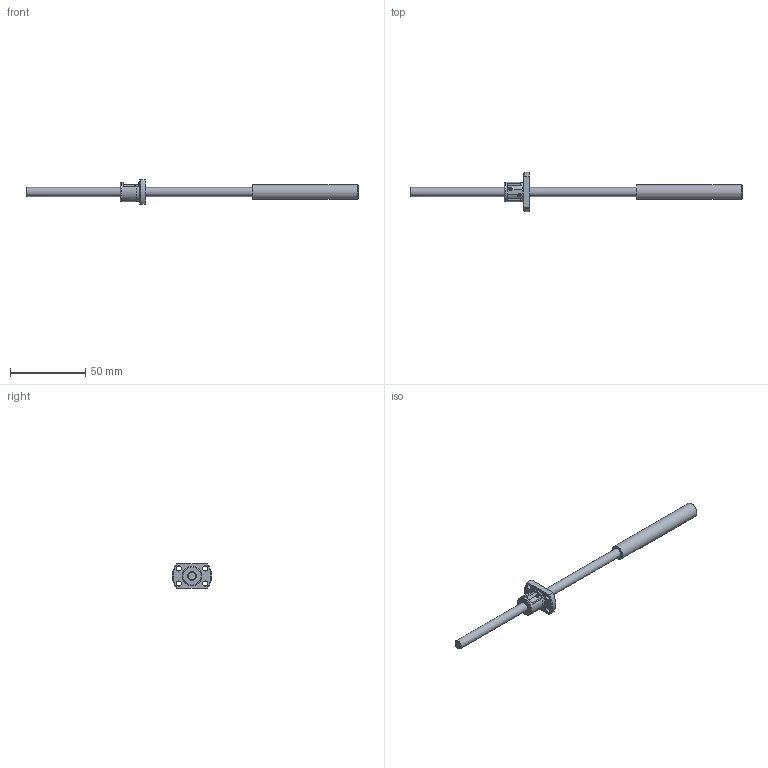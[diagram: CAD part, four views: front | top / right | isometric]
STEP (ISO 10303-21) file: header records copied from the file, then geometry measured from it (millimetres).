
FILE_DESCRIPTION(/* description */ ('STEP AP214'),/* implementation_level */ '2;1');
FILE_NAME(/* name */ 'SRT0601-146R220C7A0X(62.5None)',/* time_stamp */ '2026-08-04T17:53:02+02:00',/* author */ ('License CC BY-ND 4.0'),/* organization */ ('CADENAS'),/* preprocessor_version */ 'ST-DEVELOPER v20',/* originating_system */ 'PARTsolutions',/* authorisation */ ' ');
FILE_SCHEMA (('AUTOMOTIVE_DESIGN {1 0 10303 214 3 1 1}'));
Length unit declared in the file: millimetre
Products named in the file (3): SRT0601-146R220C7A0X(62.5None); SRT0601-146R220ACt7None13Shaft; SRT0601Nut
Assembly tree (2 placements, depth 2):
  SRT0601-146R220C7A0X(62.5None)
    SRT0601-146R220ACt7None13Shaft
    SRT0601Nut
Bounding box: 220 x 26 x 16 mm (x, y, z)
Volume: 11883.4 mm3; surface area: 7066.7 mm2
Topology: 2 solids, 2 shells, 50 faces, 131 edges, 87 vertices
Faces by surface type: plane 24, cylinder 15, cone 11
Full cylindrical faces by diameter (mm): 1 x2, 3.4 x4, 6 x2, 9.7 x1, 12.5 x1, 13 x1
Entity records: 1481 total; most frequent: CARTESIAN_POINT 293, DIRECTION 238, ORIENTED_EDGE 202, AXIS2_PLACEMENT_3D 102, EDGE_CURVE 101, EDGE_LOOP 80, FACE_BOUND 80, VERTEX_POINT 75
